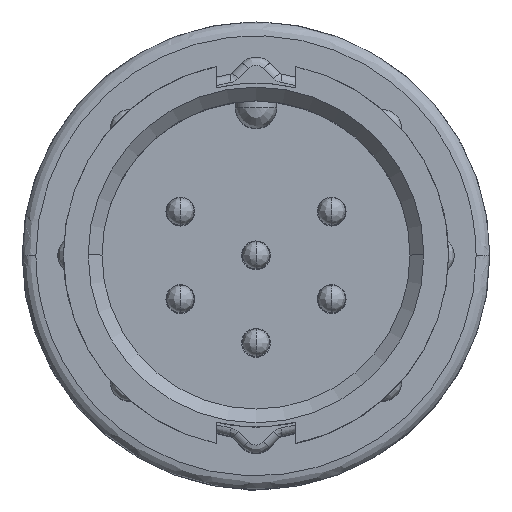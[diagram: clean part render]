
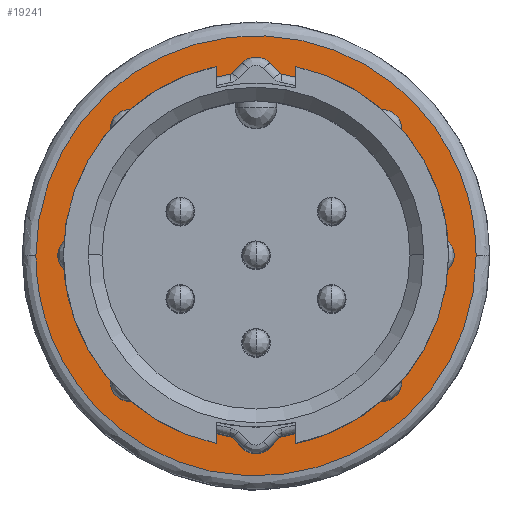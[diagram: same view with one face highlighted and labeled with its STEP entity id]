
A CAD part, top view. The second image highlights one B-rep face of the part: STEP entity #19241.
In plain terms, the highlighted planar face has unit normal (0, 0, 1).
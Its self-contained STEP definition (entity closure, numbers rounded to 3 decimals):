
#332 = CARTESIAN_POINT ( 'NONE',  ( -6.5, 0.427, -17.9 ) ) ;
#406 = VERTEX_POINT ( 'NONE', #14683 ) ;
#1035 = CARTESIAN_POINT ( 'NONE',  ( 8., 0., -17.9 ) ) ;
#2127 = CARTESIAN_POINT ( 'NONE',  ( 6.5, 0., -17.9 ) ) ;
#2492 = FACE_OUTER_BOUND ( 'NONE', #30943, .T. ) ;
#2654 = CARTESIAN_POINT ( 'NONE',  ( -8., 0., -17.9 ) ) ;
#2832 = CARTESIAN_POINT ( 'NONE',  ( 6.458, 0.85, -17.9 ) ) ;
#2999 = CARTESIAN_POINT ( 'NONE',  ( -6.292, 1.686, -17.9 ) ) ;
#3173 = CARTESIAN_POINT ( 'NONE',  ( -5.199, 3.993, -17.9 ) ) ;
#3378 = EDGE_CURVE ( 'NONE', #406, #15970, #21116, .T. ) ;
#4118 = CARTESIAN_POINT ( 'NONE',  ( -6.458, -0.85, -17.9 ) ) ;
#4220 = EDGE_CURVE ( 'NONE', #28498, #6583, #24513, .T. ) ;
#4292 = CARTESIAN_POINT ( 'NONE',  ( -3.993, -5.199, -17.9 ) ) ;
#4387 = EDGE_CURVE ( 'NONE', #6583, #28498, #27895, .T. ) ;
#4453 = CARTESIAN_POINT ( 'NONE',  ( 8., 0., -17.9 ) ) ;
#5139 = CARTESIAN_POINT ( 'NONE',  ( 8., -16., -17.9 ) ) ;
#5327 = CARTESIAN_POINT ( 'NONE',  ( 6.292, 1.686, -17.9 ) ) ;
#5475 = CARTESIAN_POINT ( 'NONE',  ( -6.5, 0., -17.9 ) ) ;
#5825 = CARTESIAN_POINT ( 'NONE',  ( 5.679, 3.275, -17.9 ) ) ;
#5988 = EDGE_CURVE ( 'NONE', #15970, #406, #10241, .T. ) ;
#6583 = VERTEX_POINT ( 'NONE', #15979 ) ;
#7283 = CARTESIAN_POINT ( 'NONE',  ( 5.679, -3.275, -17.9 ) ) ;
#7449 = CARTESIAN_POINT ( 'NONE',  ( -3.275, -5.679, -17.9 ) ) ;
#7659 = CARTESIAN_POINT ( 'NONE',  ( 5.199, 3.993, -17.9 ) ) ;
#9822 = DIRECTION ( 'NONE',  ( 0., 0., 1. ) ) ;
#9936 = CARTESIAN_POINT ( 'NONE',  ( 6.168, -2.093, -17.9 ) ) ;
#10162 = CARTESIAN_POINT ( 'NONE',  ( 6.168, 2.093, -17.9 ) ) ;
#10241 = B_SPLINE_CURVE_WITH_KNOTS ( 'NONE', 3,
 ( #23141, #332, #10482, #2999, #28292, #23308, #3173, #18304, #25650, #28616, #15314, #13154, #18149, #30618, #17987, #7659, #5825, #10162, #5327, #2832, #12983, #25979 ),
 .UNSPECIFIED., .F., .F.,
 ( 4, 2, 2, 2, 2, 2, 2, 2, 2, 2, 4 ),
 ( 0., 0.063, 0.125, 0.25, 0.375, 0.5, 0.625, 0.75, 0.875, 0.938, 1. ),
 .UNSPECIFIED. ) ;
#10482 = CARTESIAN_POINT ( 'NONE',  ( -6.458, 0.85, -17.9 ) ) ;
#11947 = CARTESIAN_POINT ( 'NONE',  ( 3.275, -5.679, -17.9 ) ) ;
#12114 = CARTESIAN_POINT ( 'NONE',  ( -0.853, -6.5, -17.9 ) ) ;
#12251 = ORIENTED_EDGE ( 'NONE', *, *, #3378, .T. ) ;
#12284 = CARTESIAN_POINT ( 'NONE',  ( 6.5, -0.427, -17.9 ) ) ;
#12440 = CARTESIAN_POINT ( 'NONE',  ( 6.458, -0.85, -17.9 ) ) ;
#12983 = CARTESIAN_POINT ( 'NONE',  ( 6.5, 0.427, -17.9 ) ) ;
#13154 = CARTESIAN_POINT ( 'NONE',  ( 0.853, 6.5, -17.9 ) ) ;
#13967 = CARTESIAN_POINT ( 'NONE',  ( -8., 16., -17.9 ) ) ;
#14283 = CARTESIAN_POINT ( 'NONE',  ( -6.5, -0.427, -17.9 ) ) ;
#14452 = CARTESIAN_POINT ( 'NONE',  ( -5.199, -3.993, -17.9 ) ) ;
#14683 = CARTESIAN_POINT ( 'NONE',  ( 6.5, 0., -17.9 ) ) ;
#15314 = CARTESIAN_POINT ( 'NONE',  ( -0.853, 6.5, -17.9 ) ) ;
#15954 = CARTESIAN_POINT ( 'NONE',  ( -8., -16., -17.9 ) ) ;
#15970 = VERTEX_POINT ( 'NONE', #5475 ) ;
#15979 = CARTESIAN_POINT ( 'NONE',  ( -8., 0., -17.9 ) ) ;
#16289 = CARTESIAN_POINT ( 'NONE',  ( -8., 0., -17.9 ) ) ;
#17328 = CARTESIAN_POINT ( 'NONE',  ( -8.32, -8.322, -17.9 ) ) ;
#17440 = CARTESIAN_POINT ( 'NONE',  ( 5.199, -3.993, -17.9 ) ) ;
#17605 = CARTESIAN_POINT ( 'NONE',  ( -6.168, -2.093, -17.9 ) ) ;
#17987 = CARTESIAN_POINT ( 'NONE',  ( 3.993, 5.199, -17.9 ) ) ;
#18149 = CARTESIAN_POINT ( 'NONE',  ( 1.699, 6.332, -17.9 ) ) ;
#18304 = CARTESIAN_POINT ( 'NONE',  ( -3.993, 5.199, -17.9 ) ) ;
#19241 = ADVANCED_FACE ( 'NONE', ( #19822, #2492 ), #29960, .T. ) ;
#19772 = CARTESIAN_POINT ( 'NONE',  ( -6.5, 0., -17.9 ) ) ;
#19822 = FACE_BOUND ( 'NONE', #28525, .T. ) ;
#20853 = ORIENTED_EDGE ( 'NONE', *, *, #4387, .F. ) ;
#21116 = B_SPLINE_CURVE_WITH_KNOTS ( 'NONE', 3,
 ( #2127, #12284, #12440, #22425, #9936, #7283, #17440, #21929, #11947, #27581, #22584, #12114, #30240, #7449, #4292, #14452, #32415, #17605, #24603, #4118, #14283, #19772 ),
 .UNSPECIFIED., .F., .F.,
 ( 4, 2, 2, 2, 2, 2, 2, 2, 2, 2, 4 ),
 ( 0., 0.062, 0.125, 0.25, 0.375, 0.5, 0.625, 0.75, 0.875, 0.937, 1. ),
 .UNSPECIFIED. ) ;
#21929 = CARTESIAN_POINT ( 'NONE',  ( 3.993, -5.199, -17.9 ) ) ;
#22425 = CARTESIAN_POINT ( 'NONE',  ( 6.292, -1.686, -17.9 ) ) ;
#22584 = CARTESIAN_POINT ( 'NONE',  ( 0.853, -6.5, -17.9 ) ) ;
#22609 = AXIS2_PLACEMENT_3D ( 'NONE', #17328, #9822, #27793 ) ;
#23141 = CARTESIAN_POINT ( 'NONE',  ( -6.5, 0., -17.9 ) ) ;
#23308 = CARTESIAN_POINT ( 'NONE',  ( -5.679, 3.275, -17.9 ) ) ;
#24513 =( BOUNDED_CURVE ( )  B_SPLINE_CURVE ( 3, ( #28596, #5139, #15954, #2654 ),
 .UNSPECIFIED., .F., .F. ) 
 B_SPLINE_CURVE_WITH_KNOTS ( ( 4, 4 ),
 ( 0., 1. ),
 .UNSPECIFIED. ) 
 CURVE ( )  GEOMETRIC_REPRESENTATION_ITEM ( )  RATIONAL_B_SPLINE_CURVE ( ( 1., 0.333, 0.333, 1. ) ) 
 REPRESENTATION_ITEM ( '' )  );
#24603 = CARTESIAN_POINT ( 'NONE',  ( -6.292, -1.686, -17.9 ) ) ;
#24696 = ORIENTED_EDGE ( 'NONE', *, *, #5988, .T. ) ;
#25650 = CARTESIAN_POINT ( 'NONE',  ( -3.275, 5.679, -17.9 ) ) ;
#25979 = CARTESIAN_POINT ( 'NONE',  ( 6.5, 0., -17.9 ) ) ;
#27581 = CARTESIAN_POINT ( 'NONE',  ( 1.7, -6.332, -17.9 ) ) ;
#27793 = DIRECTION ( 'NONE',  ( 1., 0., 0. ) ) ;
#27895 =( BOUNDED_CURVE ( )  B_SPLINE_CURVE ( 3, ( #16289, #13967, #31924, #4453 ),
 .UNSPECIFIED., .F., .F. ) 
 B_SPLINE_CURVE_WITH_KNOTS ( ( 4, 4 ),
 ( 0., 1. ),
 .UNSPECIFIED. ) 
 CURVE ( )  GEOMETRIC_REPRESENTATION_ITEM ( )  RATIONAL_B_SPLINE_CURVE ( ( 1., 0.333, 0.333, 1. ) ) 
 REPRESENTATION_ITEM ( '' )  );
#28292 = CARTESIAN_POINT ( 'NONE',  ( -6.168, 2.093, -17.9 ) ) ;
#28498 = VERTEX_POINT ( 'NONE', #1035 ) ;
#28525 = EDGE_LOOP ( 'NONE', ( #24696, #12251 ) ) ;
#28596 = CARTESIAN_POINT ( 'NONE',  ( 8., 0., -17.9 ) ) ;
#28616 = CARTESIAN_POINT ( 'NONE',  ( -1.7, 6.332, -17.9 ) ) ;
#28883 = ORIENTED_EDGE ( 'NONE', *, *, #4220, .F. ) ;
#29960 = PLANE ( 'NONE',  #22609 ) ;
#30240 = CARTESIAN_POINT ( 'NONE',  ( -1.699, -6.332, -17.9 ) ) ;
#30618 = CARTESIAN_POINT ( 'NONE',  ( 3.275, 5.679, -17.9 ) ) ;
#30943 = EDGE_LOOP ( 'NONE', ( #28883, #20853 ) ) ;
#31924 = CARTESIAN_POINT ( 'NONE',  ( 8., 16., -17.9 ) ) ;
#32415 = CARTESIAN_POINT ( 'NONE',  ( -5.679, -3.275, -17.9 ) ) ;
